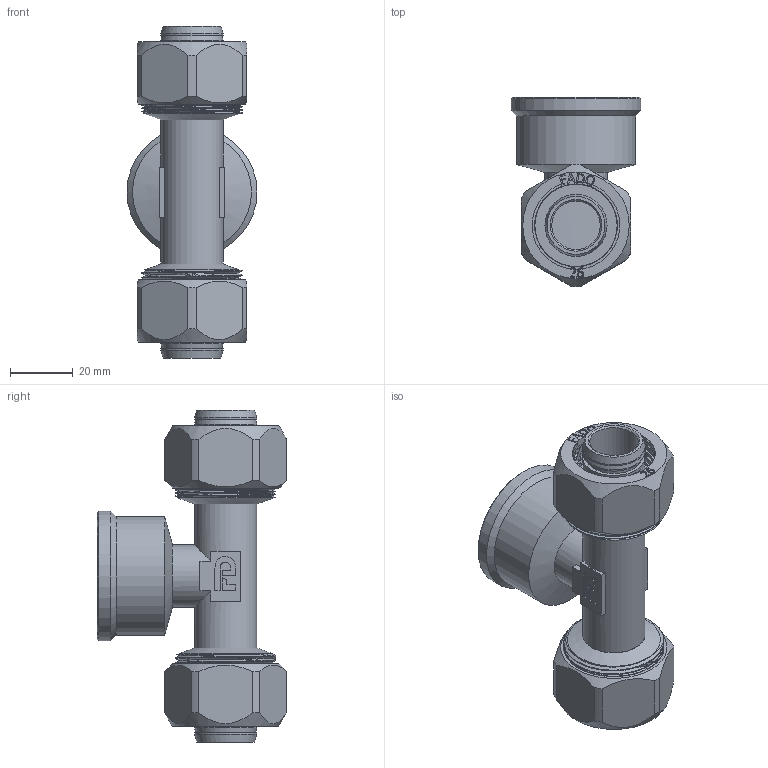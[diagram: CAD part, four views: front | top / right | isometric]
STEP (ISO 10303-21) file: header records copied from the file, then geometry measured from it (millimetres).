
FILE_DESCRIPTION(/* description */ (''),/* implementation_level */ '2;1');
FILE_NAME(/* name */ 'C:\Users\Doom\Desktop\Фадотех\Обжим\RFT14 26x1''''Fx26 30.03.2020\RFT14 26x1''''Fx26 30.03.2020.stp',/* time_stamp */ '2022-06-01T13:12:58+03:00',/* author */ ('Doom'),/* organization */ (''),/* preprocessor_version */ 'ST-DEVELOPER v18',/* originating_system */ 'Autodesk Inventor 2020',/* authorisation */ '');
FILE_SCHEMA (('AUTOMOTIVE_DESIGN { 1 0 10303 214 3 1 1 }'));
Length unit declared in the file: millimetre
Products named in the file (5): RFT14 26x1''Fx26 30.03.2020; RFM29 32x1.2M 30.03.2020; FADO MC Nut-26 15.02.2020; FADO MC Socket-26 15.02.2020; Olive 26 15.02.2020
Assembly tree (7 placements, depth 2):
  RFT14 26x1''Fx26 30.03.2020
    RFM29 32x1.2M 30.03.2020
    FADO MC Nut-26 15.02.2020  x2
    FADO MC Socket-26 15.02.2020  x2
    Olive 26 15.02.2020  x2
Bounding box: 41.5 x 60.5 x 106 mm (x, y, z)
Volume: 52991 mm3; surface area: 60465.6 mm2
Topology: 12 solids, 12 shells, 1081 faces, 2997 edges, 2021 vertices
Faces by surface type: bspline 546, plane 315, cylinder 173, cone 41, torus 6
Full cylindrical faces by diameter (mm): 15.5 x2, 16 x2, 17.6 x4, 19.8 x12, 21 x2, 24 x4, 24.5 x2, 26.5 x2, 29.776 x2, 29.816 x7, 30 x2, 30.517 x24, 30.6 x2, 32 x22, 33.24 x2, 38 x1, 41.5 x1
Entity records: 43345 total; most frequent: CARTESIAN_POINT 29278, ORIENTED_EDGE 3402, DIRECTION 2001, EDGE_CURVE 1701, VERTEX_POINT 1147, LINE 689, VECTOR 689, B_SPLINE_CURVE_WITH_KNOTS 681
